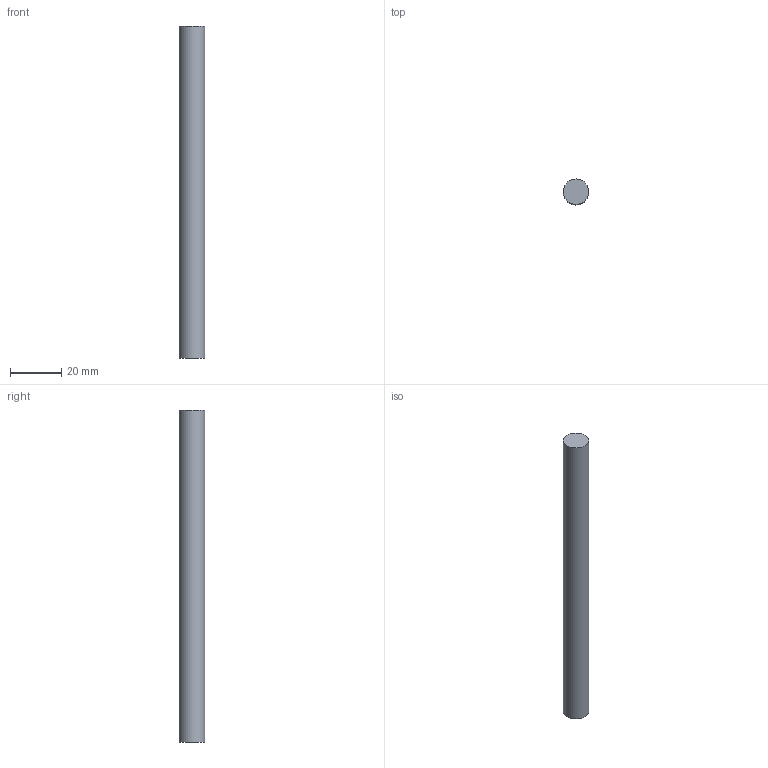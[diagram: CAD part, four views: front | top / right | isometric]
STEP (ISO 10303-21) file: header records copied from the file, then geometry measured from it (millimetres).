
FILE_DESCRIPTION(('Open CASCADE Model'),'2;1');
FILE_NAME('Open CASCADE Shape Model','2026-10-04T01:02:30',('Author'),( 'Open CASCADE'),'Open CASCADE STEP processor 8.0','Open CASCADE 8.0' ,'Unknown');
FILE_SCHEMA(('AUTOMOTIVE_DESIGN { 1 0 10303 214 1 1 1 1 }'));
Length unit declared in the file: millimetre
Products named in the file (1): Open CASCADE STEP translator 8.0 206
Bounding box: 10 x 10 x 130 mm (x, y, z)
Volume: 10210.2 mm3; surface area: 4241.2 mm2
Topology: 1 solids, 1 shells, 3 faces, 3 edges, 2 vertices
Faces by surface type: plane 2, cylinder 1
Full cylindrical faces by diameter (mm): 10 x1
Entity records: 108 total; most frequent: DIRECTION 19, CARTESIAN_POINT 15, AXIS2_PLACEMENT_3D 6, ORIENTED_EDGE 6, PCURVE 6, DEFINITIONAL_REPRESENTATION 6, LINE 5, VECTOR 5
